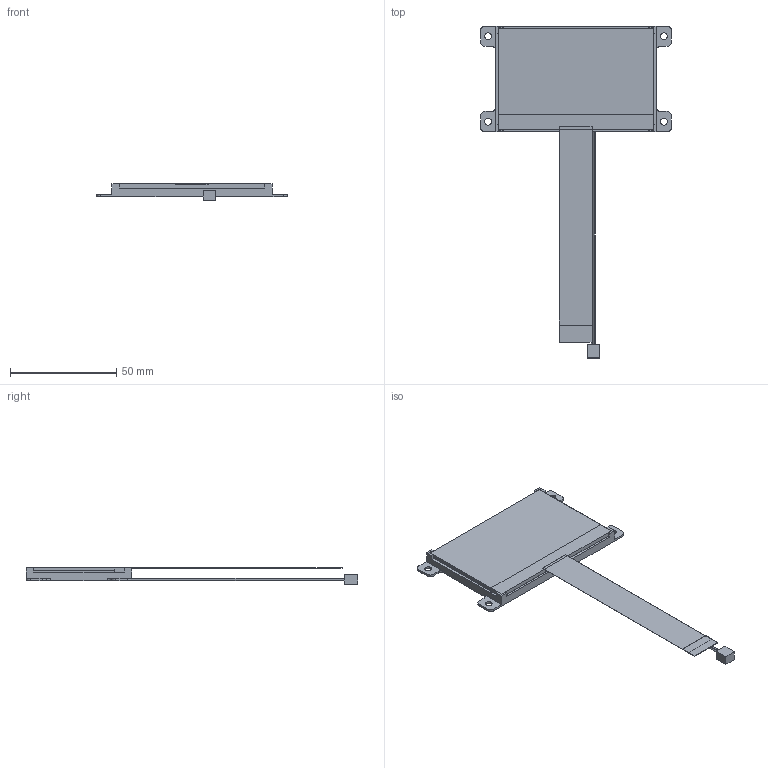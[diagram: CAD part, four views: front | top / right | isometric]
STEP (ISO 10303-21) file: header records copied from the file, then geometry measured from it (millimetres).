
FILE_DESCRIPTION (( 'STEP AP214' ), '1' );
FILE_NAME ('NHD-C12864WO-B1TM#-M.STEP', '2017-09-13T21:36:38', ( '' ), ( '' ), 'SwSTEP 2.0', 'SolidWorks 2017', '' );
FILE_SCHEMA (( 'AUTOMOTIVE_DESIGN' ));
Length unit declared in the file: millimetre
Products named in the file (1): NHD-C12864WO-B1TM#-M
Bounding box: 89.7 x 156.15 x 7.75 mm (x, y, z)
Volume: 26327 mm3; surface area: 28091.3 mm2
Topology: 8 solids, 8 shells, 110 faces, 280 edges, 186 vertices
Faces by surface type: plane 86, cylinder 24
Entity records: 4289 total; most frequent: CARTESIAN_POINT 577, ORIENTED_EDGE 560, DIRECTION 550, EDGE_CURVE 280, VECTOR 232, LINE 232, VERTEX_POINT 186, AXIS2_PLACEMENT_3D 159
